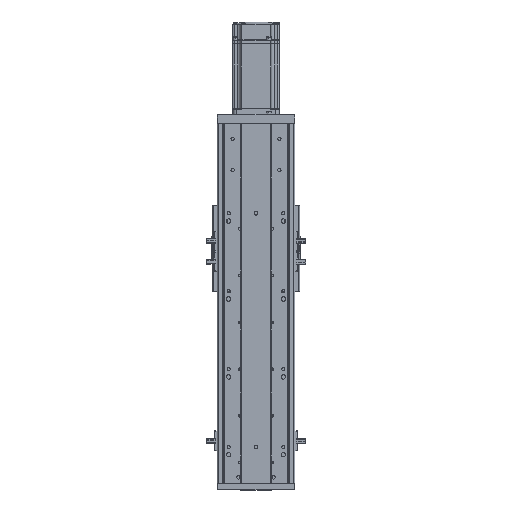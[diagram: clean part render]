
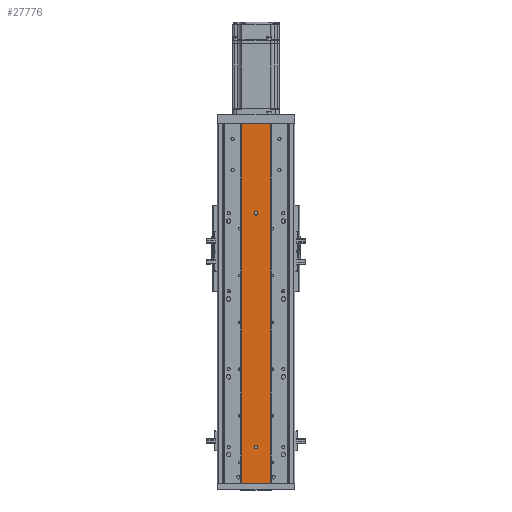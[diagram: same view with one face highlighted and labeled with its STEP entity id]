
A CAD part, top view. The second image highlights one B-rep face of the part: STEP entity #27776.
In plain terms, the highlighted planar face has unit normal (0, 0, 1).
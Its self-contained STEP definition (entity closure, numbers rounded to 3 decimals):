
#1219 = AXIS2_PLACEMENT_3D ( 'NONE', #41107, #41143, #41117 ) ;
#1225 = AXIS2_PLACEMENT_3D ( 'NONE', #41211, #41197, #41193 ) ;
#1447 = AXIS2_PLACEMENT_3D ( 'NONE', #42748, #42755, #42750 ) ;
#1484 = AXIS2_PLACEMENT_3D ( 'NONE', #42701, #42708, #42722 ) ;
#2621 = AXIS2_PLACEMENT_3D ( 'NONE', #3345, #3382, #3393 ) ;
#3345 = CARTESIAN_POINT ( 'NONE',  ( -10645.079, 462., -17040.86 ) ) ;
#3382 = DIRECTION ( 'NONE',  ( 0., 0., -1. ) ) ;
#3391 = PLANE ( 'NONE',  #2621 ) ;
#3393 = DIRECTION ( 'NONE',  ( -1., 0., 0. ) ) ;
#13859 = EDGE_CURVE ( 'NONE', #36424, #36498, #40011, .T. ) ;
#13898 = EDGE_CURVE ( 'NONE', #36444, #36491, #40058, .T. ) ;
#14434 = EDGE_CURVE ( 'NONE', #35058, #35073, #40913, .T. ) ;
#14437 = EDGE_CURVE ( 'NONE', #35073, #35071, #40896, .T. ) ;
#14441 = EDGE_CURVE ( 'NONE', #36491, #36444, #40872, .T. ) ;
#14451 = EDGE_CURVE ( 'NONE', #35034, #35071, #40876, .T. ) ;
#14454 = EDGE_CURVE ( 'NONE', #36498, #36424, #40904, .T. ) ;
#14456 = EDGE_CURVE ( 'NONE', #35058, #35034, #40939, .T. ) ;
#19166 = ORIENTED_EDGE ( 'NONE', *, *, #13859, .T. ) ;
#19182 = ORIENTED_EDGE ( 'NONE', *, *, #14456, .F. ) ;
#19201 = ORIENTED_EDGE ( 'NONE', *, *, #14441, .T. ) ;
#19205 = ORIENTED_EDGE ( 'NONE', *, *, #14434, .T. ) ;
#19227 = ORIENTED_EDGE ( 'NONE', *, *, #14454, .T. ) ;
#19236 = ORIENTED_EDGE ( 'NONE', *, *, #14451, .F. ) ;
#19259 = ORIENTED_EDGE ( 'NONE', *, *, #13898, .T. ) ;
#19260 = ORIENTED_EDGE ( 'NONE', *, *, #14437, .T. ) ;
#24757 = CARTESIAN_POINT ( 'NONE',  ( -10645.079, 462., -17040.86 ) ) ;
#24763 = CARTESIAN_POINT ( 'NONE',  ( -10607.079, 462., -17040.86 ) ) ;
#24764 = CARTESIAN_POINT ( 'NONE',  ( -10607.079, 0., -17040.86 ) ) ;
#24774 = CARTESIAN_POINT ( 'NONE',  ( -10645.079, 0., -17040.86 ) ) ;
#25420 = CARTESIAN_POINT ( 'NONE',  ( -10623.579, 347., -17040.86 ) ) ;
#25456 = CARTESIAN_POINT ( 'NONE',  ( -10628.579, 347., -17040.86 ) ) ;
#25472 = CARTESIAN_POINT ( 'NONE',  ( -10628.579, 47., -17040.86 ) ) ;
#25482 = CARTESIAN_POINT ( 'NONE',  ( -10623.579, 47., -17040.86 ) ) ;
#27776 = ADVANCED_FACE ( 'NONE', ( #32934, #32949, #32904 ), #3391, .F. ) ;
#32904 = FACE_OUTER_BOUND ( 'NONE', #43445, .T. ) ;
#32934 = FACE_BOUND ( 'NONE', #43481, .T. ) ;
#32949 = FACE_BOUND ( 'NONE', #43511, .T. ) ;
#35034 = VERTEX_POINT ( 'NONE', #24763 ) ;
#35058 = VERTEX_POINT ( 'NONE', #24757 ) ;
#35071 = VERTEX_POINT ( 'NONE', #24764 ) ;
#35073 = VERTEX_POINT ( 'NONE', #24774 ) ;
#36424 = VERTEX_POINT ( 'NONE', #25420 ) ;
#36444 = VERTEX_POINT ( 'NONE', #25482 ) ;
#36491 = VERTEX_POINT ( 'NONE', #25472 ) ;
#36498 = VERTEX_POINT ( 'NONE', #25456 ) ;
#40011 = CIRCLE ( 'NONE', #1219, 2.5 ) ;
#40058 = CIRCLE ( 'NONE', #1225, 2.5 ) ;
#40872 = CIRCLE ( 'NONE', #1484, 2.5 ) ;
#40876 = LINE ( 'NONE', #42770, #40921 ) ;
#40896 = LINE ( 'NONE', #42696, #40899 ) ;
#40899 = VECTOR ( 'NONE', #42725, 1000. ) ;
#40904 = CIRCLE ( 'NONE', #1447, 2.5 ) ;
#40913 = LINE ( 'NONE', #42713, #40918 ) ;
#40918 = VECTOR ( 'NONE', #42710, 1000. ) ;
#40921 = VECTOR ( 'NONE', #42747, 1000. ) ;
#40939 = LINE ( 'NONE', #42757, #40947 ) ;
#40947 = VECTOR ( 'NONE', #42766, 1000. ) ;
#41107 = CARTESIAN_POINT ( 'NONE',  ( -10626.079, 347., -17040.86 ) ) ;
#41117 = DIRECTION ( 'NONE',  ( -1., 0., 0. ) ) ;
#41143 = DIRECTION ( 'NONE',  ( 0., 0., -1. ) ) ;
#41193 = DIRECTION ( 'NONE',  ( -1., 0., 0. ) ) ;
#41197 = DIRECTION ( 'NONE',  ( 0., 0., -1. ) ) ;
#41211 = CARTESIAN_POINT ( 'NONE',  ( -10626.079, 47., -17040.86 ) ) ;
#42696 = CARTESIAN_POINT ( 'NONE',  ( -10645.079, 0., -17040.86 ) ) ;
#42701 = CARTESIAN_POINT ( 'NONE',  ( -10626.079, 47., -17040.86 ) ) ;
#42708 = DIRECTION ( 'NONE',  ( 0., 0., -1. ) ) ;
#42710 = DIRECTION ( 'NONE',  ( 0., -1., 0. ) ) ;
#42713 = CARTESIAN_POINT ( 'NONE',  ( -10645.079, 462., -17040.86 ) ) ;
#42722 = DIRECTION ( 'NONE',  ( -1., 0., 0. ) ) ;
#42725 = DIRECTION ( 'NONE',  ( 1., 0., 0. ) ) ;
#42747 = DIRECTION ( 'NONE',  ( 0., -1., 0. ) ) ;
#42748 = CARTESIAN_POINT ( 'NONE',  ( -10626.079, 347., -17040.86 ) ) ;
#42750 = DIRECTION ( 'NONE',  ( -1., 0., 0. ) ) ;
#42755 = DIRECTION ( 'NONE',  ( 0., 0., -1. ) ) ;
#42757 = CARTESIAN_POINT ( 'NONE',  ( -10645.079, 462., -17040.86 ) ) ;
#42766 = DIRECTION ( 'NONE',  ( 1., 0., 0. ) ) ;
#42770 = CARTESIAN_POINT ( 'NONE',  ( -10607.079, 462., -17040.86 ) ) ;
#43445 = EDGE_LOOP ( 'NONE', ( #19260, #19236, #19182, #19205 ) ) ;
#43481 = EDGE_LOOP ( 'NONE', ( #19166, #19227 ) ) ;
#43511 = EDGE_LOOP ( 'NONE', ( #19259, #19201 ) ) ;
